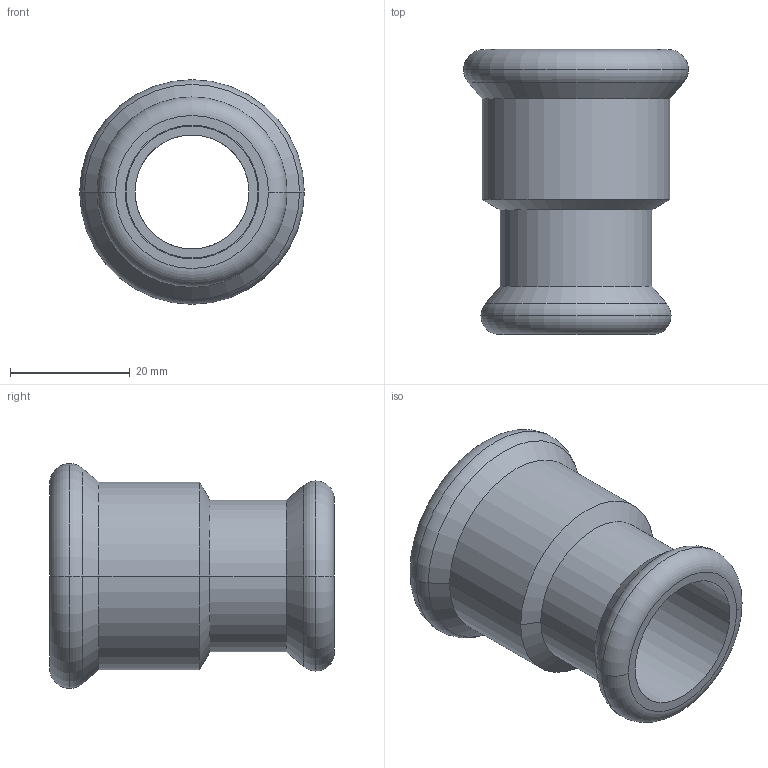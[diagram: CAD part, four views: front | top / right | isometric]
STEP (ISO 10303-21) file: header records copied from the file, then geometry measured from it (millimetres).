
FILE_DESCRIPTION(('CoCreate Modeling STEP Export'),'2;1');
FILE_NAME('C1439 22x28.stp','2014-11-12T16:40:18',(''),(''),'CoCreate Modeling STEP processor for AP214 (Solid Model)','CoCreate Modeling 17.00A 17-Jun-2010 (C) Parametric Technology GmbH','');
FILE_SCHEMA(('AUTOMOTIVE_DESIGN { 1 0 10303 214 1 1 1 1 }'));
Length unit declared in the file: millimetre
Products named in the file (2): C1439_22x28
Assembly tree (1 placements, depth 2):
  C1439_22x28
    C1439_22x28
Bounding box: 37.45 x 47.5 x 37.45 mm (x, y, z)
Volume: 10025.3 mm3; surface area: 9800 mm2
Topology: 1 solids, 1 shells, 37 faces, 78 edges, 48 vertices
Faces by surface type: cylinder 16, torus 8, plane 7, cone 6
Entity records: 846 total; most frequent: ORIENTED_EDGE 156, DIRECTION 126, CARTESIAN_POINT 122, EDGE_CURVE 78, AXIS2_PLACEMENT_3D 52, VERTEX_POINT 48, EDGE_LOOP 44, FACE_OUTER_BOUND 37
